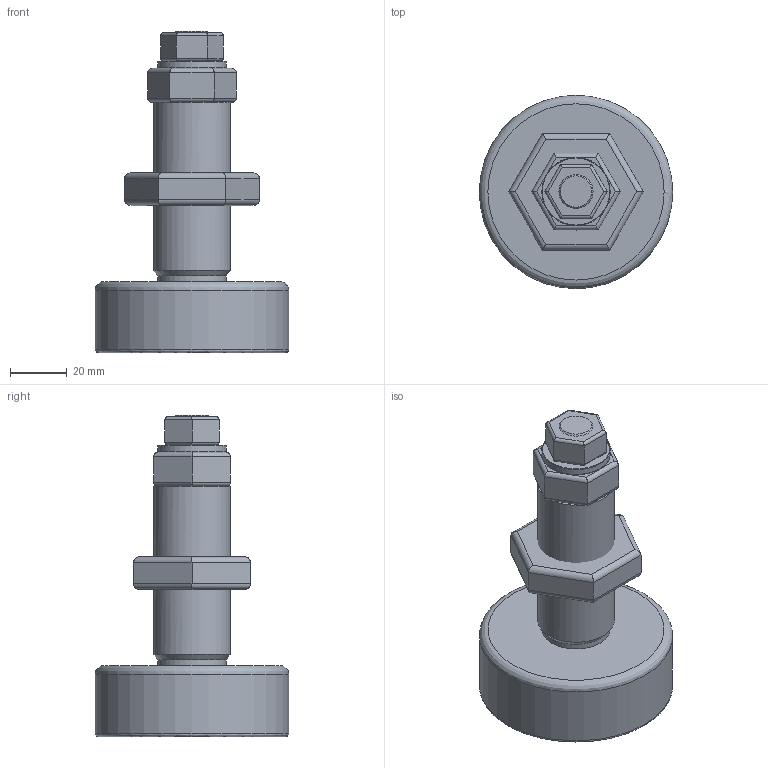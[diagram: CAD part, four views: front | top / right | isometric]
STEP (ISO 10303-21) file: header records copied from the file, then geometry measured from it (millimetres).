
FILE_DESCRIPTION(('STEP AP203'),'2;1');
FILE_NAME('12627-60.stp','2015-05-20T16:31:06',(''),(''),'2008.1.107','THINKDESIGN','');
FILE_SCHEMA(('CONFIG_CONTROL_DESIGN'));
Length unit declared in the file: millimetre
Bounding box: 68 x 68 x 113 mm (x, y, z)
Volume: 154325.1 mm3; surface area: 27714.2 mm2
Topology: 7 solids, 7 shells, 78 faces, 164 edges, 100 vertices
Faces by surface type: cylinder 40, plane 32, bspline 6
Full cylindrical faces by diameter (mm): 24 x2, 27 x1, 68 x1
Entity records: 3555 total; most frequent: CARTESIAN_POINT 1876, ORIENTED_EDGE 328, DIRECTION 300, EDGE_CURVE 164, AXIS2_PLACEMENT_3D 102, VERTEX_POINT 100, VECTOR 96, LINE 96
